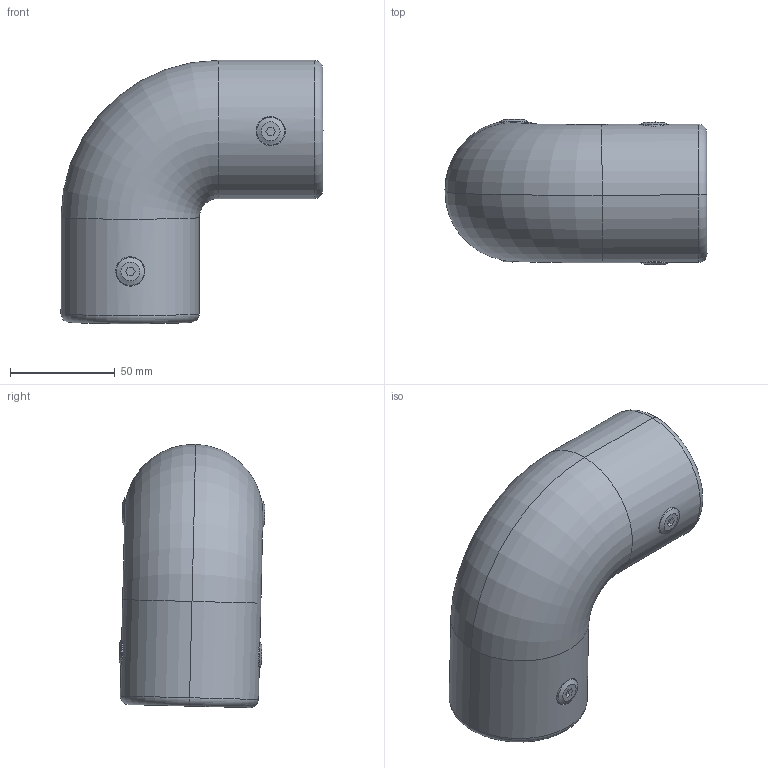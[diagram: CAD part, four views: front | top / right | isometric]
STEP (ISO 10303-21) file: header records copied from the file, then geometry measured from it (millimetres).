
FILE_DESCRIPTION(/* description */ ('FRP HANDRAIL FITTING'),/* implementation_level */ '2;1');
FILE_NAME(/* name */ 'C:\Users\Callum\The Trustee for INKSTONE UNIT TRUST\GRP Australia - Documents\8 Drawings\Handrails\3D Models\Handrail Fittings STEP\MH2-90 Elbow Assembly.stp',/* time_stamp */ '2022-09-15T10:35:03+10:00',/* author */ ('Callum'),/* organization */ (''),/* preprocessor_version */ 'ST-DEVELOPER v18.1',/* originating_system */ 'Autodesk Inventor 2022',/* authorisation */ '');
FILE_SCHEMA (('AUTOMOTIVE_DESIGN { 1 0 10303 214 3 1 1 }'));
Length unit declared in the file: millimetre
Products named in the file (5): MH2-90 Elbow Assembly; MH2-90 elbow; MHR M6 BARREL NUT & SET SCREW; M6x8 Barrel Nut; M6x50 Soc Head Screw
Assembly tree (6 placements, depth 3):
  MH2-90 Elbow Assembly
    MH2-90 elbow  x2
    MHR M6 BARREL NUT & SET SCREW  x2
      M6x8 Barrel Nut
      M6x50 Soc Head Screw
Bounding box: 125.09 x 69.67 x 125.69 mm (x, y, z)
Volume: 244145.1 mm3; surface area: 73675.3 mm2
Topology: 6 solids, 6 shells, 92 faces, 204 edges, 138 vertices
Faces by surface type: plane 54, cylinder 22, torus 8, cone 4, bspline 4
Full cylindrical faces by diameter (mm): 5 x2, 6 x2, 8 x2, 8.5 x4, 14 x4
Entity records: 1656 total; most frequent: CARTESIAN_POINT 417, DIRECTION 241, ORIENTED_EDGE 204, EDGE_CURVE 102, AXIS2_PLACEMENT_3D 92, VERTEX_POINT 69, LINE 57, VECTOR 57
